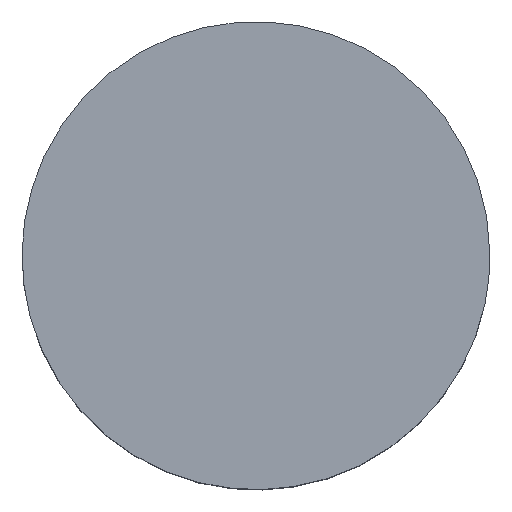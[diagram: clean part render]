
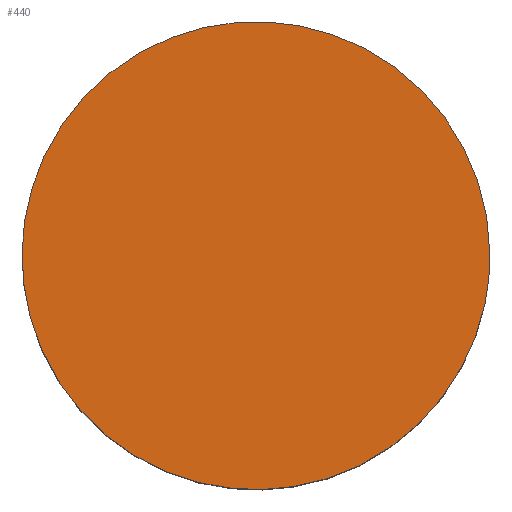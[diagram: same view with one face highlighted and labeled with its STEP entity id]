
A CAD part, top view. The second image highlights one B-rep face of the part: STEP entity #440.
In plain terms, the highlighted planar face has unit normal (0, 0, 1).
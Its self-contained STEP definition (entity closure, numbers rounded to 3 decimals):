
#230 = CARTESIAN_POINT ('', (1., 0., -111.));
#240 = VERTEX_POINT ('', #230);
#250 = CARTESIAN_POINT ('', (1., 0., -111.));
#260 = CARTESIAN_POINT ('', (1., 1., -111.));
#270 = CARTESIAN_POINT ('', (0., 1., -111.));
#280 = CARTESIAN_POINT ('', (-1., 1., -111.));
#290 = CARTESIAN_POINT ('', (-1., 0., -111.));
#300 = CARTESIAN_POINT ('', (-1., -1., -111.));
#310 = CARTESIAN_POINT ('', (0., -1., -111.));
#320 = CARTESIAN_POINT ('', (1., -1., -111.));
#330 = CARTESIAN_POINT ('', (1., 0., -111.));
#340 = (
   BOUNDED_CURVE ()
   B_SPLINE_CURVE (2, (#250, #260, #270, #280, #290, #300, #310, #320, #330), .UNSPECIFIED., .T., .U.)
   B_SPLINE_CURVE_WITH_KNOTS ((3, 2, 2, 2, 3), (0., 1.571, 3.142, 4.712, 6.283), .UNSPECIFIED.)
   CURVE ()
   GEOMETRIC_REPRESENTATION_ITEM ()
   RATIONAL_B_SPLINE_CURVE ((1., 0.707, 1., 0.707, 1., 0.707, 1., 0.707, 1.))
   REPRESENTATION_ITEM ('')
);
#350 = EDGE_CURVE ('', #240, #240, #340, .T.);
#360 = ORIENTED_EDGE ('', *, *, #350, .T.);
#370 = EDGE_LOOP ('', (#360));
#380 = FACE_OUTER_BOUND ('', #370, .T.);
#390 = CARTESIAN_POINT ('', (0., 2.244, -111.));
#400 = DIRECTION ('', (0., 0., 1.));
#410 = DIRECTION ('', (-0.707, -0.707, 0.));
#420 = AXIS2_PLACEMENT_3D ('', #390, #400, #410);
#430 = PLANE ('', #420);
#440 = ADVANCED_FACE ('', (#380), #430, .T.);
